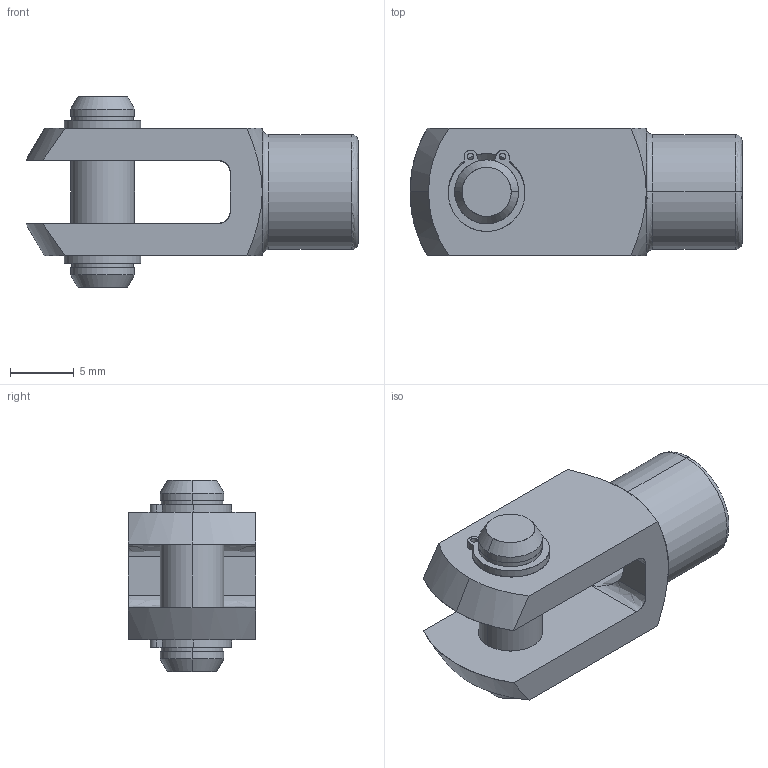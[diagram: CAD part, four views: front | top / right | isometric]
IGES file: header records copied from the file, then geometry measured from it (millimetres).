
Start section: SolidWorks IGES file using analytic representation for surfaces
Global section: file name: C:\Documents and Settings\IANO\My Documents\Wix and Auto CAD Work\CAD Models\Parametric Models\Wix Models\60000\65614_v2\65614_v2_IGES\65614.W0051.igs; native system: SolidWorks 2009; preprocessor: SolidWorks 2009; author: IANO; date: 140118.103806; units: millimetre
Bounding box: 26 x 10 x 15 mm (x, y, z)
Surface area: 1672.5 mm2 (no closed solid volume)
Topology: 0 solids, 0 shells, 94 faces, 1454 edges, 1454 vertices
Faces by surface type: revolution 63, bspline 31
